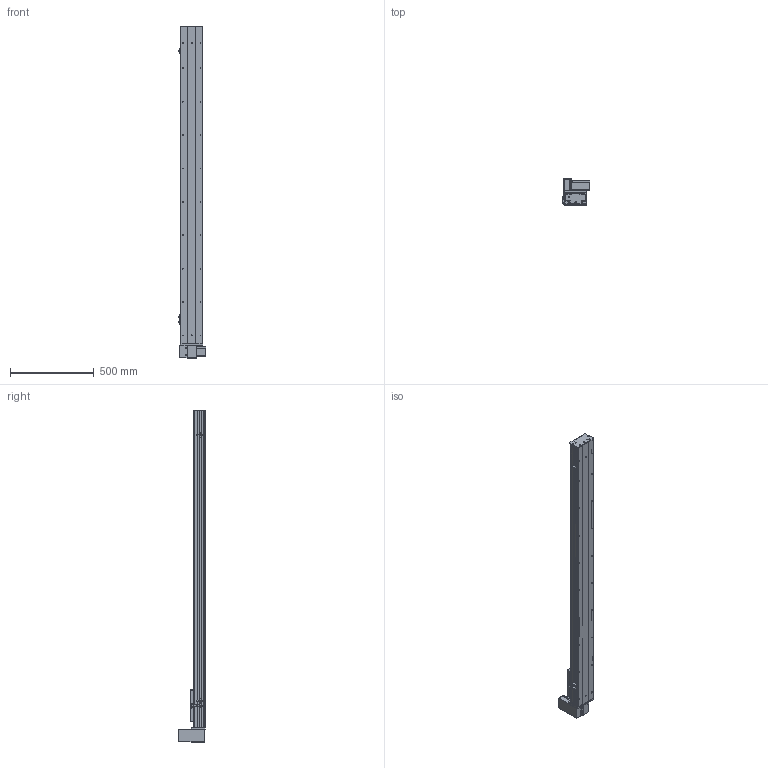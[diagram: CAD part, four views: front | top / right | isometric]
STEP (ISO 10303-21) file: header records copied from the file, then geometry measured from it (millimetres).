
FILE_DESCRIPTION (( 'STEP AP203' ), '1' );
FILE_NAME ('Y135CB-D90-S1600-UR-P400W.STEP', '2020-02-18T04:18:18', ( '微软用户' ), ( '微软中国' ), 'SwSTEP 2.0', 'SolidWorks 2017', '' );
FILE_SCHEMA (( 'CONFIG_CONTROL_DESIGN' ));
Length unit declared in the file: millimetre
Products named in the file (18): 0B-埴倛裔啣; 5C--俋欶; 0B-源倛裔啣; C-雄赽釱--; 0B-萇儂楊擘啣; Y10B--々湍喘謫眊--666; san松下电机400不带刹车----; Y10B-耜蚾蟀諉啣----; 5CB --掛极耜裔啣-; 00B-俋欶BM--; C-詩湍揤踡え-陔; Y135CB-耜裔; Y135CB-D90-S1600-UR-P400W; 135CB--詩湍-CE; 135CB---遴掛极.-; Y100-135俋离換覜ん--; 35CB---喘謫眊楊擘啣; Y135C-陔俋离換覜結え-
Assembly tree (21 placements, depth 2):
  Y135CB-D90-S1600-UR-P400W
    Y135CB-耜裔
    135CB---遴掛极.-
    35CB---喘謫眊楊擘啣
    0B-埴倛裔啣
    0B-源倛裔啣
    0B-萇儂楊擘啣
    san松下电机400不带刹车----
    5CB --掛极耜裔啣-  x2
    C-詩湍揤踡え-陔  x2
    135CB--詩湍-CE
    Y100-135俋离換覜ん--  x3
    Y135C-陔俋离換覜結え-
    5C--俋欶
    C-雄赽釱--
    Y10B--々湍喘謫眊--666
    Y10B-耜蚾蟀諉啣----
    00B-俋欶BM--
Bounding box: 167.5 x 158.7 x 1988 mm (x, y, z)
Volume: 5944599.4 mm3; surface area: 2341733.3 mm2
Topology: 21 solids, 21 shells, 957 faces, 2581 edges, 1710 vertices
Faces by surface type: cylinder 485, plane 456, cone 16
Entity records: 29955 total; most frequent: DIRECTION 4977, CARTESIAN_POINT 4944, ORIENTED_EDGE 4638, EDGE_CURVE 2319, AXIS2_PLACEMENT_3D 1819, VERTEX_POINT 1538, VECTOR 1339, LINE 1339
